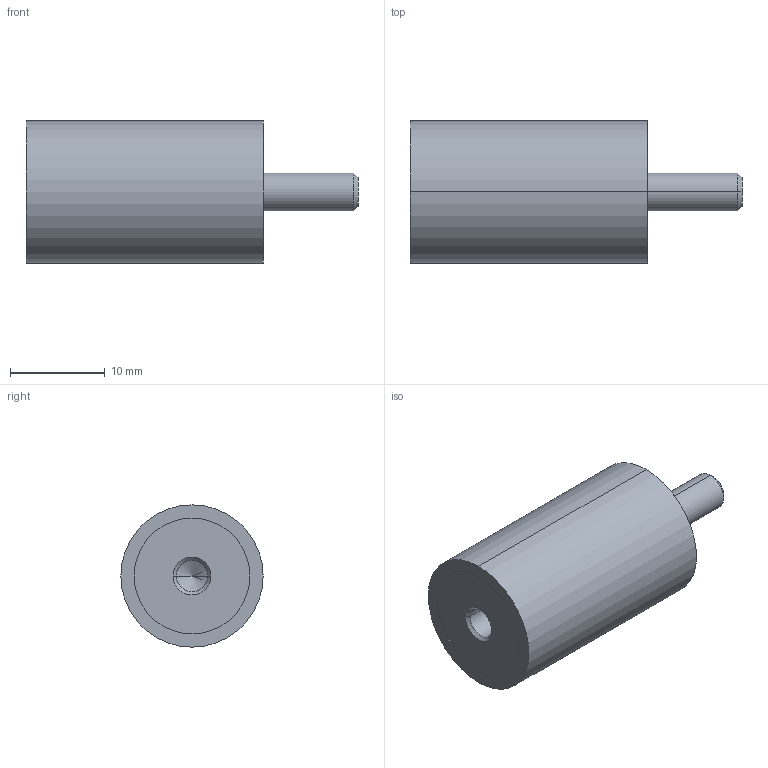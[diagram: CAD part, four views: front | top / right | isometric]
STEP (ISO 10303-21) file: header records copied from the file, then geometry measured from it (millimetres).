
FILE_DESCRIPTION (( 'STEP AP214' ), '1' );
FILE_NAME ('351-15-25-M4-ES-70.step', '2025-07-23T09:41:52', ( '' ), ( '' ), 'SwSTEP 2.0', 'SolidWorks 2022', '' );
FILE_SCHEMA (( 'AUTOMOTIVE_DESIGN' ));
Length unit declared in the file: millimetre
Products named in the file (1): 351-15-25-M4-ES-70
Bounding box: 35 x 15 x 15 mm (x, y, z)
Volume: 4494.2 mm3; surface area: 1705.5 mm2
Topology: 1 solids, 1 shells, 24 faces, 48 edges, 29 vertices
Faces by surface type: cylinder 12, cone 6, plane 6
Entity records: 740 total; most frequent: DIRECTION 124, CARTESIAN_POINT 100, ORIENTED_EDGE 92, AXIS2_PLACEMENT_3D 53, EDGE_CURVE 46, VERTEX_POINT 29, EDGE_LOOP 29, CIRCLE 28
